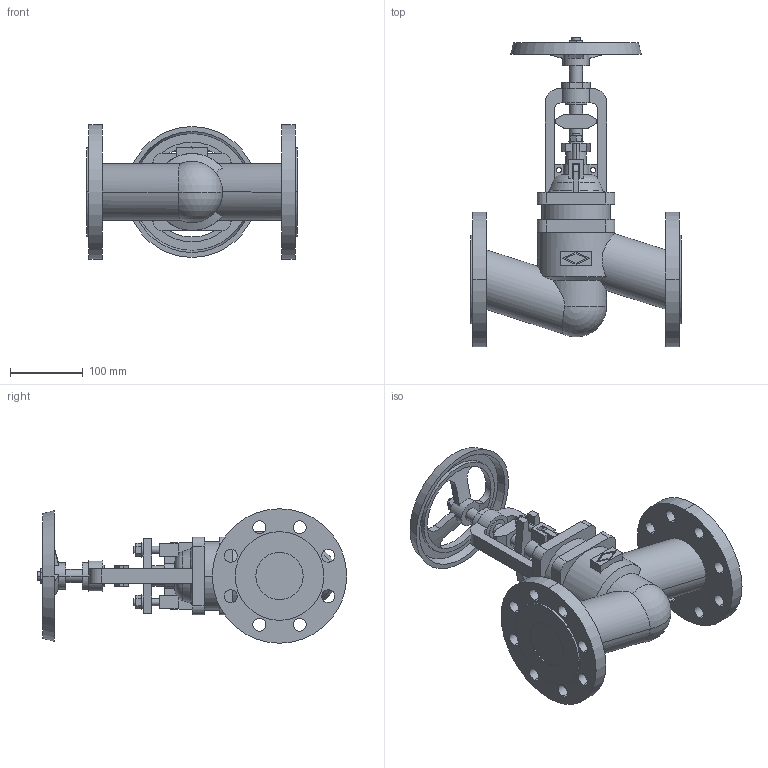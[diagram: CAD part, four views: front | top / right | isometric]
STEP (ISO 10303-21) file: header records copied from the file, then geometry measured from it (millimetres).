
FILE_DESCRIPTION(('OneSpaceDesigner STEP Export'),'2;1');
FILE_NAME('c000003763.stp','2009-06-16T11:01:07',(''),(''),'OneSpace Designer STEP processor for AP214 (Solid Model)','OneSpace Modeling 15.50B 03-Nov-2007 (C) CoCreate Software GmbH','');
FILE_SCHEMA(('AUTOMOTIVE_DESIGN { 1 0 10303 214 1 1 1 1 }'));
Length unit declared in the file: millimetre
Products named in the file (1): 1
Bounding box: 290 x 425.9 x 185 mm (x, y, z)
Volume: 3788187.8 mm3; surface area: 366865.6 mm2
Topology: 1 solids, 1 shells, 305 faces, 816 edges, 535 vertices
Faces by surface type: plane 148, cylinder 123, cone 20, torus 12, sphere 2
Entity records: 12279 total; most frequent: CARTESIAN_POINT 2577, ORIENTED_EDGE 1628, DIRECTION 1321, EDGE_CURVE 814, VERTEX_POINT 535, AXIS2_PLACEMENT_3D 444, VECTOR 433, LINE 433
